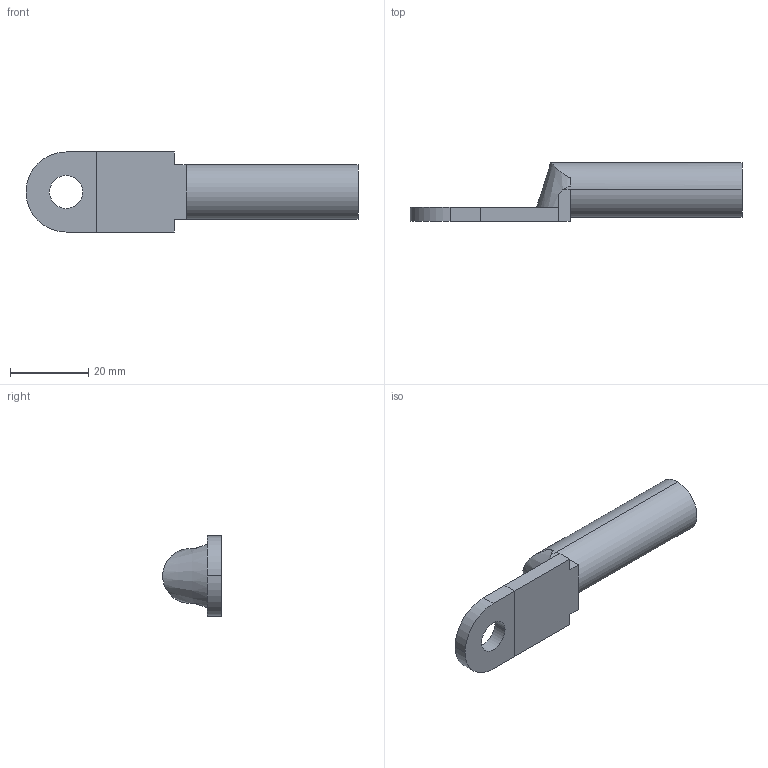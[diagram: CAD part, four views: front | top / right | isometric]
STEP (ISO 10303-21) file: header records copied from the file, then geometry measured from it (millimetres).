
FILE_DESCRIPTION (( 'STEP AP214' ), '1' );
FILE_NAME ('OptiKit L-DTL 35-10.STEP', '2020-04-24T12:48:46', ( '' ), ( '' ), 'SwSTEP 2.0', 'SolidWorks 2018', '' );
FILE_SCHEMA (( 'AUTOMOTIVE_DESIGN' ));
Length unit declared in the file: millimetre
Products named in the file (3): 极噉 35-10; DTL-35-10; OptiKit L-DTL 35-10
Assembly tree (2 placements, depth 2):
  OptiKit L-DTL 35-10
    DTL-35-10
    极噉 35-10
Bounding box: 85 x 15 x 20.5 mm (x, y, z)
Volume: 7675.9 mm3; surface area: 5520.2 mm2
Topology: 2 solids, 2 shells, 28 faces, 67 edges, 44 vertices
Faces by surface type: plane 19, cylinder 8, cone 1
Entity records: 994 total; most frequent: CARTESIAN_POINT 225, DIRECTION 144, ORIENTED_EDGE 134, EDGE_CURVE 67, AXIS2_PLACEMENT_3D 51, VERTEX_POINT 44, VECTOR 42, LINE 42
